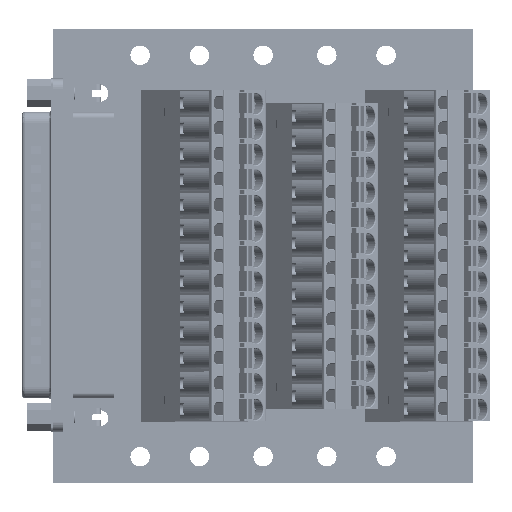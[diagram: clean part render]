
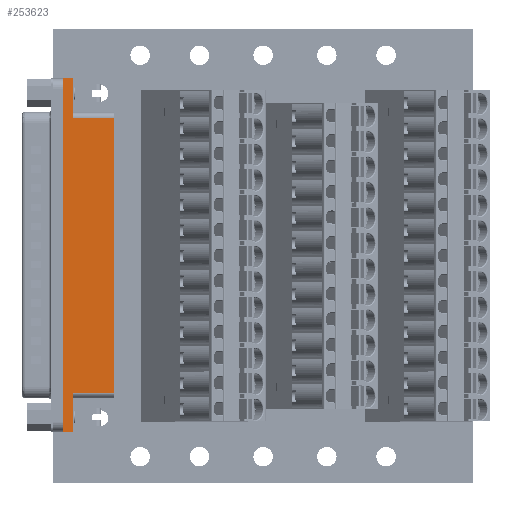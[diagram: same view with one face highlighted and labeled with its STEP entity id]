
A CAD part, top view. The second image highlights one B-rep face of the part: STEP entity #253623.
In plain terms, the highlighted planar face has unit normal (0, 0, 1) as drawn and (0, 1, 0) by its records, which use the part's own axes.
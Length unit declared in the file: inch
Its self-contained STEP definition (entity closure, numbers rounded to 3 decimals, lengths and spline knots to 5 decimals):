
#2655 = VERTEX_POINT ( 'NONE', #535084 ) ;
#7149 = EDGE_CURVE ( 'NONE', #553148, #218854, #554655, .T. ) ;
#14499 = CARTESIAN_POINT ( 'NONE',  ( 0., 0.16142, 0.47244 ) ) ;
#20243 = CARTESIAN_POINT ( 'NONE',  ( 1.36457, 0.16142, -0.09055 ) ) ;
#39081 = DIRECTION ( 'NONE',  ( 0., 0., -1. ) ) ;
#45555 = ORIENTED_EDGE ( 'NONE', *, *, #516705, .F. ) ;
#50337 = VERTEX_POINT ( 'NONE', #336095 ) ;
#80064 = EDGE_CURVE ( 'NONE', #458793, #612054, #623310, .T. ) ;
#81555 = LINE ( 'NONE', #329805, #443841 ) ;
#83353 = VERTEX_POINT ( 'NONE', #717128 ) ;
#103663 = VECTOR ( 'NONE', #637861, 39.37008 ) ;
#109788 = EDGE_LOOP ( 'NONE', ( #363189, #549026, #680295, #45555, #167194, #579831, #232848, #695076 ) ) ;
#137389 = CARTESIAN_POINT ( 'NONE',  ( -1.36457, 0.16142, 0.15157 ) ) ;
#157453 = CARTESIAN_POINT ( 'NONE',  ( 1.06299, 0.16142, 0.07874 ) ) ;
#167194 = ORIENTED_EDGE ( 'NONE', *, *, #7149, .T. ) ;
#191471 = DIRECTION ( 'NONE',  ( 0., 0., 1. ) ) ;
#205434 = EDGE_CURVE ( 'NONE', #83353, #612054, #81555, .T. ) ;
#218854 = VERTEX_POINT ( 'NONE', #470136 ) ;
#232848 = ORIENTED_EDGE ( 'NONE', *, *, #473216, .F. ) ;
#234464 = CARTESIAN_POINT ( 'NONE',  ( 1.36457, 0.16142, 0.15157 ) ) ;
#248011 = VECTOR ( 'NONE', #372162, 39.37008 ) ;
#253623 = ADVANCED_FACE ( 'NONE', ( #488297 ), #540731, .T. ) ;
#256414 = VERTEX_POINT ( 'NONE', #354822 ) ;
#257403 = VECTOR ( 'NONE', #395058, 39.37008 ) ;
#262397 = VECTOR ( 'NONE', #580419, 39.37008 ) ;
#288686 = CARTESIAN_POINT ( 'NONE',  ( -1.36457, 0.16142, -0.09055 ) ) ;
#320238 = CARTESIAN_POINT ( 'NONE',  ( 0., 0.16142, 0.07874 ) ) ;
#320893 = CARTESIAN_POINT ( 'NONE',  ( 1.06299, 0.16142, 0.07874 ) ) ;
#329805 = CARTESIAN_POINT ( 'NONE',  ( 1.06299, 0.16142, 0.15157 ) ) ;
#336095 = CARTESIAN_POINT ( 'NONE',  ( -1.36457, 0.16142, 0.07874 ) ) ;
#354822 = CARTESIAN_POINT ( 'NONE',  ( 1.06299, 0.16142, 0.47244 ) ) ;
#363189 = ORIENTED_EDGE ( 'NONE', *, *, #205434, .T. ) ;
#372162 = DIRECTION ( 'NONE',  ( 1., 0., 0. ) ) ;
#395058 = DIRECTION ( 'NONE',  ( 0., 0., -1. ) ) ;
#402144 = CARTESIAN_POINT ( 'NONE',  ( 1.36457, 0.16142, 0.07874 ) ) ;
#443841 = VECTOR ( 'NONE', #725137, 39.37008 ) ;
#446290 = EDGE_CURVE ( 'NONE', #218854, #2655, #610039, .T. ) ;
#448777 = AXIS2_PLACEMENT_3D ( 'NONE', #157453, #716059, #550494 ) ;
#458793 = VERTEX_POINT ( 'NONE', #402144 ) ;
#470136 = CARTESIAN_POINT ( 'NONE',  ( -1.06299, 0.16142, 0.15157 ) ) ;
#473216 = EDGE_CURVE ( 'NONE', #256414, #2655, #642674, .T. ) ;
#488297 = FACE_OUTER_BOUND ( 'NONE', #109788, .T. ) ;
#516705 = EDGE_CURVE ( 'NONE', #553148, #50337, #575848, .T. ) ;
#523451 = EDGE_CURVE ( 'NONE', #50337, #458793, #636822, .T. ) ;
#535084 = CARTESIAN_POINT ( 'NONE',  ( -1.06299, 0.16142, 0.47244 ) ) ;
#539887 = EDGE_CURVE ( 'NONE', #256414, #83353, #702469, .T. ) ;
#540731 = PLANE ( 'NONE',  #448777 ) ;
#549026 = ORIENTED_EDGE ( 'NONE', *, *, #80064, .F. ) ;
#550494 = DIRECTION ( 'NONE',  ( 0., 0., 1. ) ) ;
#553148 = VERTEX_POINT ( 'NONE', #137389 ) ;
#554655 = LINE ( 'NONE', #633023, #103663 ) ;
#575848 = LINE ( 'NONE', #288686, #257403 ) ;
#579831 = ORIENTED_EDGE ( 'NONE', *, *, #446290, .T. ) ;
#580419 = DIRECTION ( 'NONE',  ( -1., 0., 0. ) ) ;
#581364 = DIRECTION ( 'NONE',  ( 0., 0., 1. ) ) ;
#584439 = CARTESIAN_POINT ( 'NONE',  ( -1.06299, 0.16142, 0.07874 ) ) ;
#610039 = LINE ( 'NONE', #584439, #707105 ) ;
#612054 = VERTEX_POINT ( 'NONE', #234464 ) ;
#623310 = LINE ( 'NONE', #20243, #684981 ) ;
#633023 = CARTESIAN_POINT ( 'NONE',  ( 1.06299, 0.16142, 0.15157 ) ) ;
#636822 = LINE ( 'NONE', #320238, #248011 ) ;
#637861 = DIRECTION ( 'NONE',  ( 1., 0., 0. ) ) ;
#642674 = LINE ( 'NONE', #14499, #262397 ) ;
#667064 = VECTOR ( 'NONE', #39081, 39.37008 ) ;
#680295 = ORIENTED_EDGE ( 'NONE', *, *, #523451, .F. ) ;
#684981 = VECTOR ( 'NONE', #581364, 39.37008 ) ;
#695076 = ORIENTED_EDGE ( 'NONE', *, *, #539887, .T. ) ;
#702469 = LINE ( 'NONE', #320893, #667064 ) ;
#707105 = VECTOR ( 'NONE', #191471, 39.37008 ) ;
#716059 = DIRECTION ( 'NONE',  ( 0., 1., 0. ) ) ;
#717128 = CARTESIAN_POINT ( 'NONE',  ( 1.06299, 0.16142, 0.15157 ) ) ;
#725137 = DIRECTION ( 'NONE',  ( 1., 0., 0. ) ) ;
